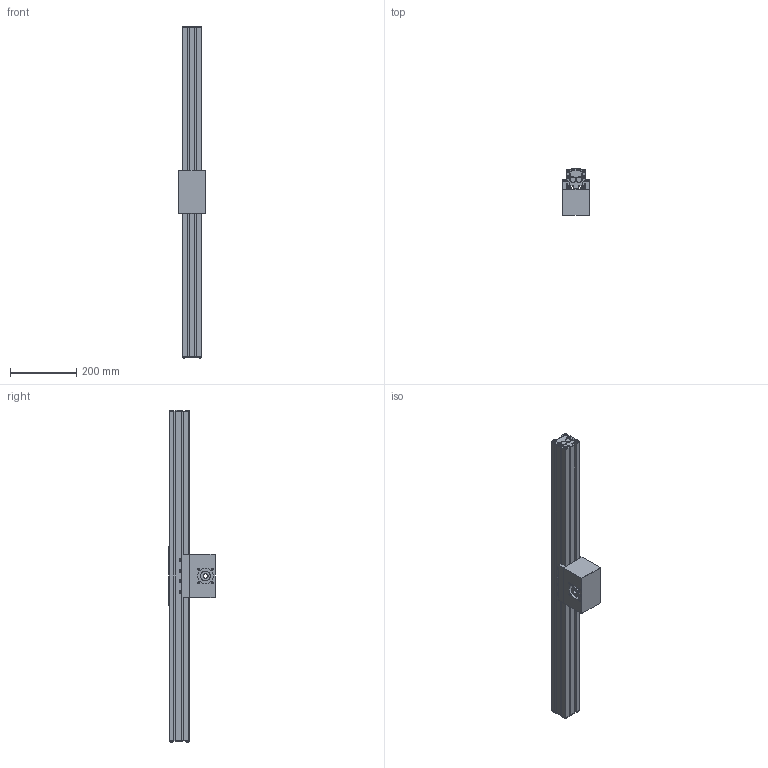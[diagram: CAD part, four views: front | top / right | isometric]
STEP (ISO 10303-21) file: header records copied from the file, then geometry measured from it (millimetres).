
FILE_DESCRIPTION (( 'STEP AP214' ), '1' );
FILE_NAME ('LLZS 60.STEP', '2021-09-30T05:48:59', ( '' ), ( '' ), 'SwSTEP 2.0', 'SolidWorks 2020', '' );
FILE_SCHEMA (( 'AUTOMOTIVE_DESIGN' ));
Length unit declared in the file: millimetre
Products named in the file (6): LLZS 60; Befestigungsprofil^LLZS 60; profile^LLZS 60; end plate^LLZS 60; timing belt reverse unit^LLZS 60_60-A; carriage^LLZS 60_carriage version 0
Assembly tree (7 placements, depth 2):
  LLZS 60
    profile^LLZS 60
    carriage^LLZS 60_carriage version 0
    end plate^LLZS 60  x2
    timing belt reverse unit^LLZS 60_60-A
    Befestigungsprofil^LLZS 60  x2
Bounding box: 80.2 x 140.5 x 999.92 mm (x, y, z)
Volume: 3425818.3 mm3; surface area: 645181.6 mm2
Topology: 9 solids, 9 shells, 852 faces, 2148 edges, 1378 vertices
Faces by surface type: plane 615, cylinder 151, cone 38, bspline 28, torus 16, sphere 4
Entity records: 21663 total; most frequent: CARTESIAN_POINT 5068, ORIENTED_EDGE 3154, DIRECTION 3043, EDGE_CURVE 1577, LINE 1269, VECTOR 1269, VERTEX_POINT 1028, AXIS2_PLACEMENT_3D 887
